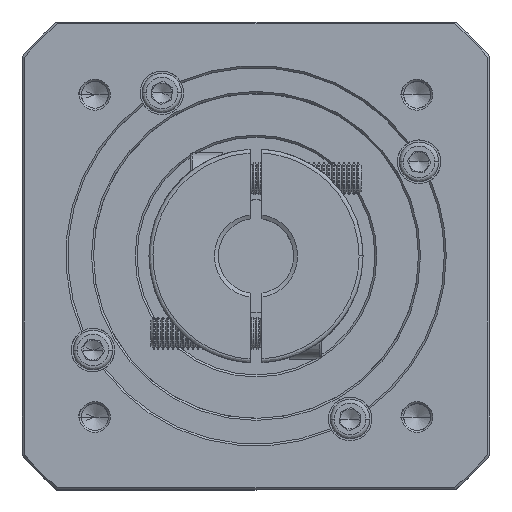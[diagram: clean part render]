
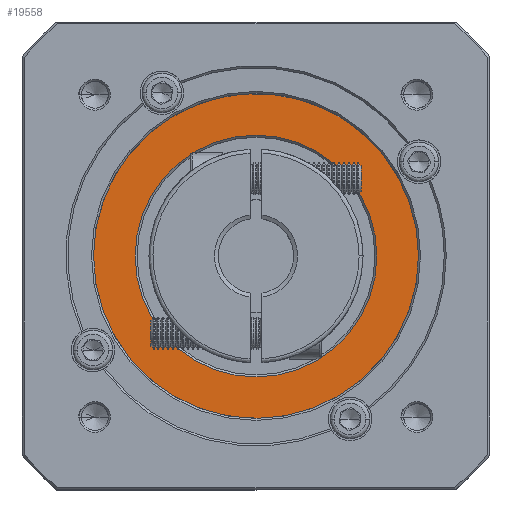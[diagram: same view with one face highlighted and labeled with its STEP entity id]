
A CAD part, top view. The second image highlights one B-rep face of the part: STEP entity #19558.
In plain terms, the highlighted planar face has unit normal (0, 0, 1).
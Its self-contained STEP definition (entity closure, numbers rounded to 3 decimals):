
#183 = DIRECTION ( 'NONE',  ( 0., 0., 1. ) ) ;
#2802 = PLANE ( 'NONE',  #74516 ) ;
#3622 = DIRECTION ( 'NONE',  ( 0., 0., 1. ) ) ;
#6909 = EDGE_CURVE ( 'NONE', #101208, #31096, #111722, .T. ) ;
#7030 = DIRECTION ( 'NONE',  ( 0., 0., 1. ) ) ;
#7233 = DIRECTION ( 'NONE',  ( 1., 0., 0. ) ) ;
#11484 = ORIENTED_EDGE ( 'NONE', *, *, #117070, .T. ) ;
#13855 = DIRECTION ( 'NONE',  ( 0., 0., 1. ) ) ;
#14267 = ORIENTED_EDGE ( 'NONE', *, *, #58256, .T. ) ;
#16648 = DIRECTION ( 'NONE',  ( 0., 0., -1. ) ) ;
#19558 = ADVANCED_FACE ( 'NONE', ( #86555, #38938 ), #2802, .T. ) ;
#23919 = AXIS2_PLACEMENT_3D ( 'NONE', #32968, #99451, #42545 ) ;
#26400 = VERTEX_POINT ( 'NONE', #60191 ) ;
#31096 = VERTEX_POINT ( 'NONE', #79037 ) ;
#32968 = CARTESIAN_POINT ( 'NONE',  ( 50.335, 124.67, -1.811 ) ) ;
#34530 = ORIENTED_EDGE ( 'NONE', *, *, #79858, .T. ) ;
#35098 = EDGE_LOOP ( 'NONE', ( #63833, #11484 ) ) ;
#35523 = EDGE_LOOP ( 'NONE', ( #14267, #81909, #101036, #56312, #53377, #34530 ) ) ;
#38938 = FACE_BOUND ( 'NONE', #35098, .T. ) ;
#41041 = VERTEX_POINT ( 'NONE', #91652 ) ;
#41289 = DIRECTION ( 'NONE',  ( 0., 0., -1. ) ) ;
#42545 = DIRECTION ( 'NONE',  ( 1., 0., 0. ) ) ;
#45283 = CIRCLE ( 'NONE', #62740, 30.5 ) ;
#48751 = VERTEX_POINT ( 'NONE', #99902 ) ;
#53377 = ORIENTED_EDGE ( 'NONE', *, *, #61322, .T. ) ;
#55336 = CIRCLE ( 'NONE', #90992, 41. ) ;
#55374 = DIRECTION ( 'NONE',  ( 0., 0., 1. ) ) ;
#56312 = ORIENTED_EDGE ( 'NONE', *, *, #100089, .T. ) ;
#57115 = CARTESIAN_POINT ( 'NONE',  ( 50.335, 124.67, -1.811 ) ) ;
#58256 = EDGE_CURVE ( 'NONE', #48751, #101208, #92637, .T. ) ;
#58823 = CARTESIAN_POINT ( 'NONE',  ( 18.57, 150.593, -1.811 ) ) ;
#60191 = CARTESIAN_POINT ( 'NONE',  ( 9.335, 124.67, -1.811 ) ) ;
#60603 = CARTESIAN_POINT ( 'NONE',  ( 50.335, 124.67, -1.811 ) ) ;
#61322 = EDGE_CURVE ( 'NONE', #100811, #26400, #72258, .T. ) ;
#62740 = AXIS2_PLACEMENT_3D ( 'NONE', #73577, #16648, #83112 ) ;
#63833 = ORIENTED_EDGE ( 'NONE', *, *, #98233, .T. ) ;
#64009 = CARTESIAN_POINT ( 'NONE',  ( 50.335, 124.67, -1.811 ) ) ;
#64208 = DIRECTION ( 'NONE',  ( 0., 0., 1. ) ) ;
#66665 = DIRECTION ( 'NONE',  ( 1., 0., 0. ) ) ;
#70166 = DIRECTION ( 'NONE',  ( 1., 0., 0. ) ) ;
#70808 = CARTESIAN_POINT ( 'NONE',  ( 50.335, 124.67, -1.811 ) ) ;
#71124 = CIRCLE ( 'NONE', #23919, 41. ) ;
#71565 = VERTEX_POINT ( 'NONE', #82989 ) ;
#72258 = CIRCLE ( 'NONE', #113852, 41. ) ;
#73547 = DIRECTION ( 'NONE',  ( 1., 0., 0. ) ) ;
#73577 = CARTESIAN_POINT ( 'NONE',  ( 50.335, 124.67, -1.811 ) ) ;
#74516 = AXIS2_PLACEMENT_3D ( 'NONE', #60603, #3622, #70166 ) ;
#78705 = AXIS2_PLACEMENT_3D ( 'NONE', #64009, #7030, #73547 ) ;
#79037 = CARTESIAN_POINT ( 'NONE',  ( 91.335, 124.67, -1.811 ) ) ;
#79830 = AXIS2_PLACEMENT_3D ( 'NONE', #121168, #64208, #7233 ) ;
#79858 = EDGE_CURVE ( 'NONE', #26400, #48751, #117371, .T. ) ;
#80337 = DIRECTION ( 'NONE',  ( 1., 0., 0. ) ) ;
#81909 = ORIENTED_EDGE ( 'NONE', *, *, #6909, .T. ) ;
#82989 = CARTESIAN_POINT ( 'NONE',  ( 80.835, 124.67, -1.811 ) ) ;
#83112 = DIRECTION ( 'NONE',  ( 1., 0., 0. ) ) ;
#86555 = FACE_OUTER_BOUND ( 'NONE', #35523, .T. ) ;
#87389 = AXIS2_PLACEMENT_3D ( 'NONE', #98231, #41289, #107788 ) ;
#90992 = AXIS2_PLACEMENT_3D ( 'NONE', #112302, #55374, #121937 ) ;
#91652 = CARTESIAN_POINT ( 'NONE',  ( 19.835, 124.67, -1.811 ) ) ;
#92637 = CIRCLE ( 'NONE', #118263, 41. ) ;
#93535 = VERTEX_POINT ( 'NONE', #58823 ) ;
#98231 = CARTESIAN_POINT ( 'NONE',  ( 50.335, 124.67, -1.811 ) ) ;
#98233 = EDGE_CURVE ( 'NONE', #71565, #41041, #45283, .T. ) ;
#99451 = DIRECTION ( 'NONE',  ( 0., 0., 1. ) ) ;
#99902 = CARTESIAN_POINT ( 'NONE',  ( 82.1, 98.748, -1.811 ) ) ;
#100089 = EDGE_CURVE ( 'NONE', #93535, #100811, #71124, .T. ) ;
#100811 = VERTEX_POINT ( 'NONE', #102599 ) ;
#101036 = ORIENTED_EDGE ( 'NONE', *, *, #102217, .T. ) ;
#101208 = VERTEX_POINT ( 'NONE', #117556 ) ;
#102217 = EDGE_CURVE ( 'NONE', #31096, #93535, #55336, .T. ) ;
#102599 = CARTESIAN_POINT ( 'NONE',  ( 11.477, 137.748, -1.811 ) ) ;
#107788 = DIRECTION ( 'NONE',  ( 1., 0., 0. ) ) ;
#111722 = CIRCLE ( 'NONE', #79830, 41. ) ;
#112302 = CARTESIAN_POINT ( 'NONE',  ( 50.335, 124.67, -1.811 ) ) ;
#113852 = AXIS2_PLACEMENT_3D ( 'NONE', #57115, #183, #66665 ) ;
#114184 = CIRCLE ( 'NONE', #87389, 30.5 ) ;
#117070 = EDGE_CURVE ( 'NONE', #41041, #71565, #114184, .T. ) ;
#117371 = CIRCLE ( 'NONE', #78705, 41. ) ;
#117556 = CARTESIAN_POINT ( 'NONE',  ( 89.194, 111.593, -1.811 ) ) ;
#118263 = AXIS2_PLACEMENT_3D ( 'NONE', #70808, #13855, #80337 ) ;
#121168 = CARTESIAN_POINT ( 'NONE',  ( 50.335, 124.67, -1.811 ) ) ;
#121937 = DIRECTION ( 'NONE',  ( 1., 0., 0. ) ) ;
